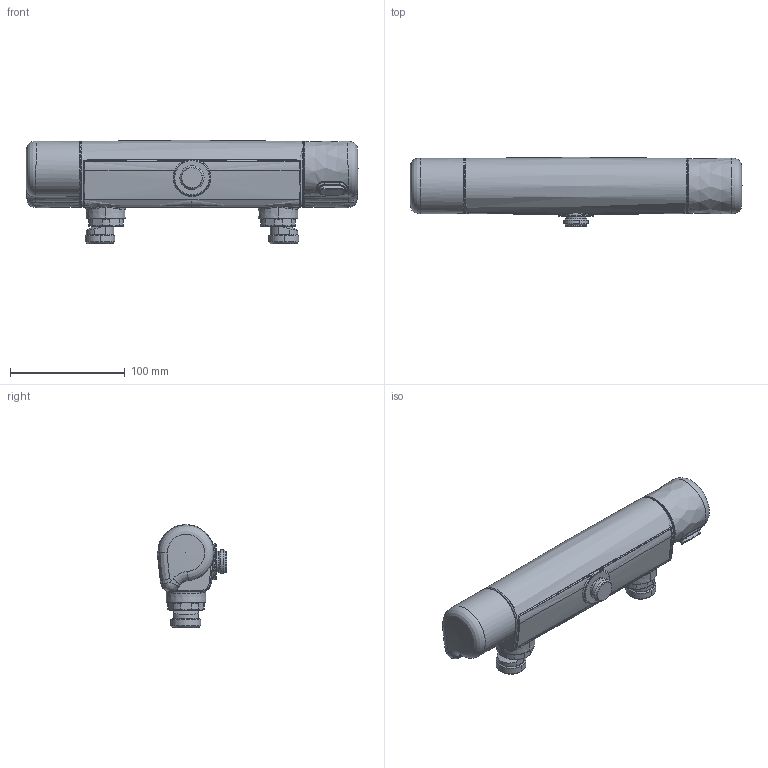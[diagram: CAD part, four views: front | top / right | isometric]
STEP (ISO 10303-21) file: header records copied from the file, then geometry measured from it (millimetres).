
FILE_DESCRIPTION (( 'STEP AP203' ), '1' );
FILE_NAME ('5764(2020).STEP', '2019-12-02T06:53:33', ( '' ), ( '' ), 'SwSTEP 2.0', 'SolidWorks 2016', '' );
FILE_SCHEMA (( 'CONFIG_CONTROL_DESIGN' ));
Length unit declared in the file: millimetre
Products named in the file (1): 5764(2020)
Bounding box: 288.96 x 60.27 x 90 mm (x, y, z)
Volume: 350879.7 mm3; surface area: 109273.4 mm2
Topology: 1 solids, 3 shells, 520 faces, 1317 edges, 804 vertices
Faces by surface type: bspline 196, cylinder 168, plane 74, cone 62, sphere 16, torus 4
Entity records: 32675 total; most frequent: CARTESIAN_POINT 21867, ORIENTED_EDGE 2606, DIRECTION 1755, EDGE_CURVE 1303, VERTEX_POINT 800, AXIS2_PLACEMENT_3D 731, B_SPLINE_CURVE_WITH_KNOTS 556, EDGE_LOOP 543
